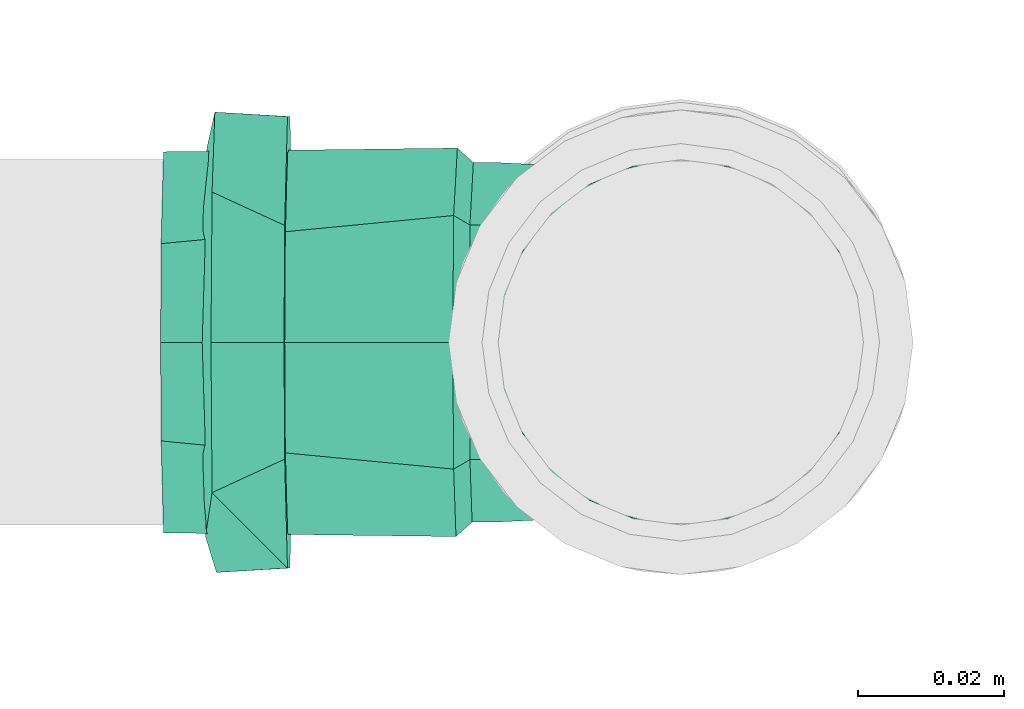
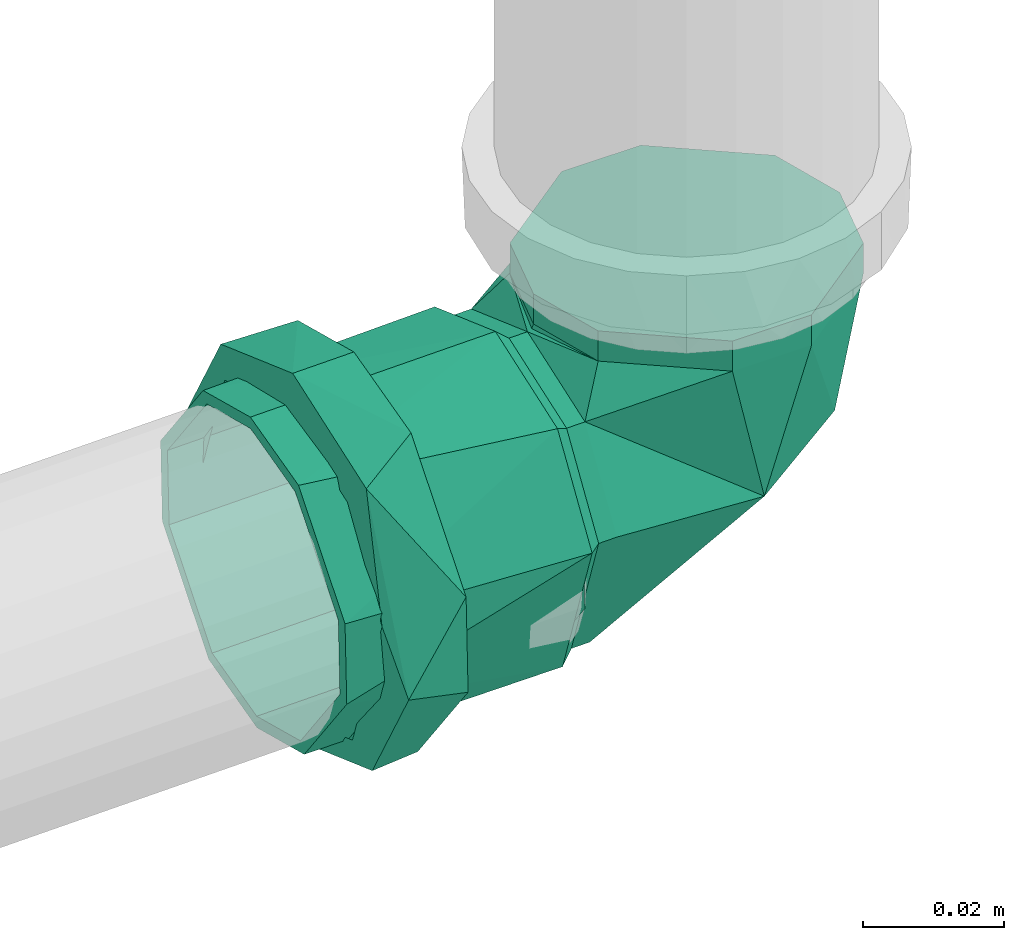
# One storey, part 69 of 589: 1 flow fitting.
"""IFC2X3 building model written with IfcOpenShell, lengths in millimetres."""

from ifc_helpers import new_model, entity, si_unit, converted_unit, derived_unit, direction, frame, origin, place, context, subcontext, project, spatial, faceted_brep, source, transform, mapped, material, type_object, type_shapes, element, save


model = new_model("IFC2X3")

# Units and contexts
model_context = context("Model", 3, precision=0.01, world=origin(), true_north=direction((6.123031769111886e-17, 1.0)))
body_context = subcontext(model_context, "Body", "Model", "MODEL_VIEW")
ifc_project = project(units=[si_unit("LENGTHUNIT", "METRE", prefix="MILLI"), si_unit("AREAUNIT", "SQUARE_METRE"), si_unit("VOLUMEUNIT", "CUBIC_METRE"), converted_unit("PLANEANGLEUNIT", "DEGREE", entity("IfcRatioMeasure", 0.017453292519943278), si_unit("PLANEANGLEUNIT", "RADIAN"), dimensions=[0, 0, 0, 0, 0, 0, 0]), si_unit("MASSUNIT", "GRAM", prefix="KILO"), derived_unit("MASSDENSITYUNIT", [(si_unit("MASSUNIT", "GRAM", prefix="KILO"), 1), (si_unit("LENGTHUNIT", "METRE"), -3)]), derived_unit("IONCONCENTRATIONUNIT", [(si_unit("MASSUNIT", "GRAM", prefix="KILO"), 1), (si_unit("LENGTHUNIT", "METRE"), -3)]), derived_unit("MOMENTOFINERTIAUNIT", [(si_unit("LENGTHUNIT", "METRE"), 4)]), si_unit("TIMEUNIT", "SECOND"), si_unit("FREQUENCYUNIT", "HERTZ"), si_unit("THERMODYNAMICTEMPERATUREUNIT", "DEGREE_CELSIUS"), derived_unit("THERMALTRANSMITTANCEUNIT", [(si_unit("MASSUNIT", "GRAM", prefix="KILO"), 1), (si_unit("THERMODYNAMICTEMPERATUREUNIT", "KELVIN"), -1), (si_unit("TIMEUNIT", "SECOND"), -3)]), derived_unit("THERMALCONDUCTANCEUNIT", [(si_unit("MASSUNIT", "GRAM", prefix="KILO"), 1), (si_unit("THERMODYNAMICTEMPERATUREUNIT", "KELVIN"), -1), (si_unit("TIMEUNIT", "SECOND"), -3), (si_unit("LENGTHUNIT", "METRE"), 1)]), derived_unit("VOLUMETRICFLOWRATEUNIT", [(si_unit("LENGTHUNIT", "METRE"), 3), (si_unit("TIMEUNIT", "SECOND"), -1)]), derived_unit("MASSFLOWRATEUNIT", [(si_unit("MASSUNIT", "GRAM", prefix="KILO"), 1), (si_unit("TIMEUNIT", "SECOND"), -1)]), derived_unit("ROTATIONALFREQUENCYUNIT", [(si_unit("TIMEUNIT", "SECOND"), -1)]), si_unit("ELECTRICCURRENTUNIT", "AMPERE"), si_unit("ELECTRICVOLTAGEUNIT", "VOLT"), si_unit("POWERUNIT", "WATT"), si_unit("FORCEUNIT", "NEWTON", prefix="KILO"), si_unit("ILLUMINANCEUNIT", "LUX"), si_unit("LUMINOUSFLUXUNIT", "LUMEN"), si_unit("LUMINOUSINTENSITYUNIT", "CANDELA"), derived_unit("USERDEFINED", [(si_unit("MASSUNIT", "GRAM", prefix="KILO"), -1), (si_unit("LENGTHUNIT", "METRE"), -2), (si_unit("TIMEUNIT", "SECOND"), 3), (si_unit("LUMINOUSFLUXUNIT", "LUMEN"), 1)]), derived_unit("USERDEFINED", [(si_unit("MASSUNIT", "GRAM", prefix="KILO"), 1), (si_unit("TIMEUNIT", "SECOND"), -3), (si_unit("LENGTHUNIT", "METRE"), 3), (si_unit("ELECTRICCURRENTUNIT", "AMPERE"), -2)]), derived_unit("SOUNDPOWERUNIT", [(si_unit("MASSUNIT", "GRAM", prefix="KILO"), 1), (si_unit("TIMEUNIT", "SECOND"), -3), (si_unit("LENGTHUNIT", "METRE"), 2)]), derived_unit("SOUNDPRESSUREUNIT", [(si_unit("MASSUNIT", "GRAM", prefix="KILO"), 1), (si_unit("LENGTHUNIT", "METRE"), -1), (si_unit("TIMEUNIT", "SECOND"), -2)]), derived_unit("LINEARVELOCITYUNIT", [(si_unit("LENGTHUNIT", "METRE"), 1), (si_unit("TIMEUNIT", "SECOND"), -1)]), si_unit("PRESSUREUNIT", "PASCAL"), derived_unit("USERDEFINED", [(si_unit("MASSUNIT", "GRAM", prefix="KILO"), 1), (si_unit("LENGTHUNIT", "METRE"), -2), (si_unit("TIMEUNIT", "SECOND"), -2)]), derived_unit("LINEARFORCEUNIT", [(si_unit("MASSUNIT", "GRAM", prefix="KILO"), 1), (si_unit("TIMEUNIT", "SECOND"), -2)]), derived_unit("PLANARFORCEUNIT", [(si_unit("MASSUNIT", "GRAM", prefix="KILO"), 1), (si_unit("LENGTHUNIT", "METRE"), -1), (si_unit("TIMEUNIT", "SECOND"), -2)]), derived_unit("SPECIFICHEATCAPACITYUNIT", [(si_unit("THERMODYNAMICTEMPERATUREUNIT", "KELVIN"), -1), (si_unit("LENGTHUNIT", "METRE"), 2), (si_unit("TIMEUNIT", "SECOND"), -2)]), derived_unit("HEATINGVALUEUNIT", [(si_unit("LENGTHUNIT", "METRE"), 2), (si_unit("TIMEUNIT", "SECOND"), -2)]), derived_unit("VAPORPERMEABILITYUNIT", [(si_unit("LENGTHUNIT", "METRE"), -1), (si_unit("TIMEUNIT", "SECOND"), 1)]), derived_unit("DYNAMICVISCOSITYUNIT", [(si_unit("MASSUNIT", "GRAM", prefix="KILO"), 1), (si_unit("TIMEUNIT", "SECOND"), -1), (si_unit("LENGTHUNIT", "METRE"), -1)]), derived_unit("THERMALEXPANSIONCOEFFICIENTUNIT", [(si_unit("THERMODYNAMICTEMPERATUREUNIT", "KELVIN"), -1)]), derived_unit("MODULUSOFELASTICITYUNIT", [(si_unit("MASSUNIT", "GRAM", prefix="KILO"), 1), (si_unit("LENGTHUNIT", "METRE"), -1), (si_unit("TIMEUNIT", "SECOND"), -2)]), derived_unit("ISOTHERMALMOISTURECAPACITYUNIT", [(si_unit("LENGTHUNIT", "METRE"), 3), (si_unit("MASSUNIT", "GRAM", prefix="KILO"), -1)]), derived_unit("MOISTUREDIFFUSIVITYUNIT", [(si_unit("TIMEUNIT", "SECOND"), -1), (si_unit("LENGTHUNIT", "METRE"), 2)])], contexts=[model_context])

# Site, building, storey
site_placement = place(None, origin())
site = spatial("IfcSite", under=ifc_project, at=site_placement, Name="Default", CompositionType="ELEMENT")
building_placement = place(site_placement, origin())
building = spatial("IfcBuilding", under=site, at=building_placement, CompositionType="ELEMENT")
storey_placement = place(building_placement, frame((0.0, 0.0, 100.0)))
storey = spatial("IfcBuildingStorey", under=building, at=storey_placement, Name="TÉRREO", CompositionType="ELEMENT", Elevation=100.0)

# Flow fitting
ifc_material = material(Name="PVC Série Normal")
pipe_fitting_type = type_object("IfcPipeFittingType", Name="PVC Esgoto_Joelho 45_90_Rodrigo MEP:a. Série Normal", PredefinedType="NOTDEFINED", material=ifc_material)
shared_shape = source(origin(), body_context, "Body", "Brep", [
    faceted_brep([(22.155908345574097, 25.047177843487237, 12.499999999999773), (6.978784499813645, 25.35072032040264, 24.148145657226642), (-5.959580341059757, 25.609487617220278, 24.14814565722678), (-21.136704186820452, 25.913030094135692, 12.500000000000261), (-24.485399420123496, 25.9800039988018, 0.0), (-21.13670418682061, 25.913030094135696, -12.499999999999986), (-5.959580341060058, 25.609487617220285, -24.1481456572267), (6.978784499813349, 25.35072032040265, -24.14814565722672), (22.155908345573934, 25.04717784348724, -12.500000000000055), (25.504603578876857, 24.980203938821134, 0.0), (22.25988755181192, 30.24613815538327, -12.500000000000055), (7.082763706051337, 30.54968063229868, -24.14814565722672), (-5.85560113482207, 30.80844792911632, -24.1481456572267), (-21.03272498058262, 31.11199040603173, -12.499999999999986), (-24.38142021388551, 31.17896431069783, 0.0), (-21.032724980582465, 31.111990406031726, 12.500000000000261), (-5.855601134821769, 30.808447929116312, 24.14814565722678), (7.082763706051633, 30.549680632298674, 24.148145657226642), (22.259887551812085, 30.246138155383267, 12.499999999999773), (25.608582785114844, 30.179164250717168, 0.0)], [[[0, 1, 2, 3, 4, 5, 6, 7, 8, 9]], [[10, 11, 12, 13, 14, 15, 16, 17, 18, 19]], [[9, 19, 18, 0]], [[0, 18, 17, 1]], [[17, 16, 2, 1]], [[2, 16, 15, 3]], [[3, 15, 14, 4]], [[4, 14, 13, 5]], [[5, 13, 12, 6]], [[12, 11, 7, 6]], [[7, 11, 10, 8]], [[8, 10, 19, 9]]]),
    faceted_brep([(-70.68519948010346, -6.988114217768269, -26.07999730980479), (-70.68519948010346, -6.47047612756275, -24.14814565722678), (-70.68519948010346, 6.4704761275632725, -24.148145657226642), (-70.68519948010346, -23.382685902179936, -13.499999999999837), (-70.68519948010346, 6.988114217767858, -26.0799973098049), (-70.68519948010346, -21.650635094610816, -12.500000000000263), (-70.68519948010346, -25.0, 0.0), (-70.68519948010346, -27.0, 0.0), (-70.68519948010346, -21.650635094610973, 12.499999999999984), (-70.68519948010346, -23.382685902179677, 13.500000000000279), (-70.68519948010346, -6.470476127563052, 24.1481456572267), (-70.68519948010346, -6.98811421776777, 26.079997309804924), (-70.68519948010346, 6.470476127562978, 24.14814565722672), (-70.68519948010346, 6.988114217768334, 26.07999730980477), (-70.68519948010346, 21.650635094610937, 12.500000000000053), (-70.68519948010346, 23.38268590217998, 13.499999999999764), (-70.68519948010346, 27.0, 0.0), (-70.68519948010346, 25.0, 0.0), (-70.68519948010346, 23.382685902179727, -13.500000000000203), (-70.68519948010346, 21.6506350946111, -12.499999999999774), (-30.685199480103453, 21.650635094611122, -12.499999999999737), (-30.685199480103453, 25.0, 0.0), (-30.685199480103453, 6.4704761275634, -24.148145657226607), (-30.685199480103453, -6.470476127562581, -24.148145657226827), (-30.685199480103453, -21.650635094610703, -12.500000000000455), (-30.685199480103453, -25.0, 0.0), (-30.685199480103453, -21.65063509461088, 12.500000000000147), (-30.685199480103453, -6.470476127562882, 24.14814565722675), (-30.685199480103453, 6.470476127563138, 24.148145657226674), (-30.685199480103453, 21.650635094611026, 12.499999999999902), (-30.685199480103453, 27.0, 0.0), (-30.68519948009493, 20.682232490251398, 17.35641838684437), (-30.685199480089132, 4.685536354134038, 26.59033187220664), (-30.68519948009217, -20.686585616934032, 17.35122979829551), (-30.685199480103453, -27.0, 0.0), (-30.685199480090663, -8.000524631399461, 21.970780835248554), (-30.685199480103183, -20.686585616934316, -17.35122979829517), (-30.685199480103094, -4.6922062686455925, -26.589155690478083), (-30.685199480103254, 20.682232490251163, -17.356418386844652), (-30.685199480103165, 7.995013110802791, -21.97278703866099), (-28.485199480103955, -4.338459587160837, -24.62067765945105), (-28.48519948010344, 25.0, 0.0), (-28.485199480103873, 19.154245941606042, -16.065953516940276), (-28.485199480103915, 7.407893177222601, -20.34331558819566), (-28.485199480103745, -19.15021526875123, -16.070757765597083), (-28.48519948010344, -25.0, 0.0), (-28.48519948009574, -19.150215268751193, 16.07075776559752), (-28.48519948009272, -7.402789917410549, 20.34517318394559), (-28.485199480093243, 19.15424594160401, 16.065953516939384), (-28.4851994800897, 4.34463543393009, 24.619588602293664), (-25.48519948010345, 25.0, 0.0), (-25.48519948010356, 19.151286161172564, 16.069481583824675), (-25.48519948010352, 4.341396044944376, 24.62016003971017), (-25.485199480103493, -7.404832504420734, 20.344954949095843), (-25.48519948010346, -19.15106105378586, 16.069749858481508), (-25.48519948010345, -25.0, 0.0), (-25.48519948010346, -19.15106105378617, -16.069749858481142), (-25.485199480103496, -4.341051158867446, -24.62022085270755), (-25.48519948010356, 19.15128616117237, -16.069481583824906), (-25.48519948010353, 7.405117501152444, -20.344851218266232), (25.50460357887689, 24.980203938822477, 0.0), (22.155908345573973, 25.0471778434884, -12.500000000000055), (6.978784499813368, 25.350720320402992, -24.14814565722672), (-5.959580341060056, 25.60948761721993, -24.1481456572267), (-21.136704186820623, 25.913030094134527, -12.499999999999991), (-24.4853994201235, 25.98000399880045, 0.0), (-21.13670418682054, 25.91303009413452, 12.500000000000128), (-5.959580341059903, 25.60948761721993, 24.14814565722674), (6.978784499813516, 25.35072032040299, 24.148145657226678), (22.155908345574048, 25.0471778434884, 12.499999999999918), (-0.7788601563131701, 1.4807484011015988, 23.396989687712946), (-2.9161415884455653, -15.783506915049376, 0.0), (14.908011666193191, 6.224974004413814, 16.278399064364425), (15.838661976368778, 2.599950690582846, 0.0), (-24.78519805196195, 25.285858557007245, 0.0), (10.21487335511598, -10.42121359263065, 0.0), (14.89184475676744, 6.201663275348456, -16.283365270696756), (-0.8189039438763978, 1.3893605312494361, -23.383376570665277)], [[[0, 1, 2]], [[1, 0, 3]], [[2, 4, 0]], [[3, 5, 1]], [[3, 6, 5]], [[6, 3, 7]], [[8, 6, 7]], [[8, 7, 9]], [[9, 10, 8]], [[9, 11, 10]], [[10, 11, 12]], [[13, 12, 11]], [[13, 14, 12]], [[14, 13, 15]], [[16, 14, 15]], [[17, 14, 16]], [[18, 17, 16]], [[18, 19, 17]], [[19, 18, 4]], [[4, 2, 19]], [[20, 21, 17, 19]], [[22, 20, 19, 2]], [[2, 1, 23, 22]], [[24, 23, 1, 5]], [[25, 24, 5, 6]], [[26, 25, 6, 8]], [[27, 26, 8, 10]], [[10, 12, 28, 27]], [[29, 28, 12, 14]], [[21, 29, 14, 17]], [[16, 15, 30]], [[15, 31, 30]], [[31, 15, 13]], [[31, 13, 32]], [[33, 11, 9]], [[34, 9, 7]], [[11, 33, 35, 32]], [[33, 9, 34]], [[11, 32, 13]], [[7, 3, 34]], [[3, 36, 34]], [[36, 3, 0]], [[36, 0, 37]], [[38, 4, 18]], [[30, 18, 16]], [[4, 38, 39, 37]], [[38, 18, 30]], [[4, 37, 0]], [[28, 29, 21, 20, 22, 23, 24, 25, 26, 27]], [[39, 40, 37]], [[41, 42, 30]], [[30, 42, 38]], [[38, 43, 39]], [[44, 45, 36]], [[38, 42, 43]], [[36, 37, 44]], [[34, 36, 45]], [[40, 39, 43]], [[44, 37, 40]], [[45, 46, 33]], [[33, 34, 45]], [[46, 35, 33]], [[46, 47, 35]], [[47, 32, 35]], [[48, 41, 30]], [[48, 31, 49]], [[31, 48, 30]], [[32, 47, 49]], [[49, 31, 32]], [[41, 48, 50]], [[48, 51, 50]], [[51, 48, 49]], [[51, 49, 52]], [[52, 47, 53]], [[46, 54, 53]], [[46, 45, 54]], [[49, 47, 52]], [[54, 45, 55]], [[47, 46, 53]], [[45, 44, 56]], [[45, 56, 55]], [[56, 44, 57]], [[58, 59, 43]], [[44, 40, 57]], [[40, 59, 57]], [[58, 43, 42]], [[42, 50, 58]], [[50, 42, 41]], [[59, 40, 43]], [[60, 61, 62, 63, 64, 65, 66, 67, 68, 69]], [[52, 70, 51]], [[54, 71, 70]], [[70, 52, 53, 54]], [[69, 72, 73]], [[50, 66, 74]], [[51, 66, 50]], [[54, 55, 71]], [[75, 70, 71]], [[73, 60, 69]], [[75, 72, 70]], [[68, 70, 72]], [[74, 66, 65]], [[72, 69, 68]], [[66, 51, 67]], [[70, 67, 51]], [[72, 75, 73]], [[68, 67, 70]], [[61, 76, 62]], [[71, 55, 56]], [[77, 58, 63]], [[77, 57, 59, 58]], [[77, 71, 56]], [[56, 57, 77]], [[75, 76, 73]], [[58, 50, 64]], [[74, 65, 64]], [[71, 77, 75]], [[64, 63, 58]], [[61, 73, 76]], [[61, 60, 73]], [[75, 77, 76]], [[76, 77, 62]], [[63, 62, 77]], [[64, 50, 74]]]),
    faceted_brep([(-53.68519948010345, 6.9881142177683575, -26.07999730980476), (-53.68519948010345, -6.988114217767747, -26.079997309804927), (-53.68519948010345, -8.282209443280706, -30.909626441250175), (-53.68519948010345, 8.28220944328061, -30.9096264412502), (-53.68519948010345, 23.38268590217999, -13.499999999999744), (-53.68519948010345, -27.712812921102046, -16.0), (-53.68519948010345, -23.38268590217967, -13.500000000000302), (-53.68519948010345, -27.0, 0.0), (-53.68519948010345, -32.0, 0.0), (-53.68519948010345, -23.382685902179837, 13.500000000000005), (-53.68519948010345, -27.712812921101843, 16.0), (-53.68519948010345, -6.988114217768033, 26.07999730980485), (-53.68519948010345, -8.28220944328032, 30.909626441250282), (-53.68519948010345, 6.988114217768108, 26.07999730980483), (-53.68519948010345, 8.282209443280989, 30.909626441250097), (-53.68519948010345, 23.382685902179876, 13.499999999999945), (-53.68519948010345, 27.712812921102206, 16.0), (-53.68519948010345, 32.0, 0.0), (-53.68519948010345, 27.0, 0.0), (-53.68519948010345, 27.712812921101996, -16.0), (-63.685199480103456, 27.0, 0.0), (-64.98519948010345, 27.0, 0.0), (-63.685199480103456, 25.191342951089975, -6.750000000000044), (-63.685199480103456, 23.38268590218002, -13.499999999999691), (-63.685199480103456, 19.284042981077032, -16.644999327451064), (-63.685199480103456, 15.185400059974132, -19.789998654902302), (-63.685199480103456, 11.086757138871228, -22.934997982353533), (-63.685199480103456, 6.988114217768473, -26.07999730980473), (-63.685199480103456, 0.0, -26.079997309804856), (-63.685199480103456, -6.988114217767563, -26.079997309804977), (-63.685199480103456, -11.086757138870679, -22.934997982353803), (-63.685199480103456, -15.185400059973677, -19.789998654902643), (-63.685199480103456, -19.284042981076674, -16.644999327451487), (-63.685199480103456, -23.382685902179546, -13.50000000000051), (-63.685199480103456, -25.191342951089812, -6.750000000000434), (-64.98519948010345, -27.0, 0.0), (-63.685199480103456, -27.0, 0.0), (-63.685199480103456, -25.19134295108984, 6.750000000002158), (-63.685199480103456, -23.382685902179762, 13.500000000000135), (-63.685199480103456, -19.284042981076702, 16.64499932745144), (-63.685199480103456, -15.185400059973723, 19.7899986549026), (-63.685199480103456, -11.086757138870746, 22.934997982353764), (-63.685199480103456, -6.988114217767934, 26.079997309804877), (-63.685199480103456, 0.0, 26.079997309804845), (-63.685199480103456, 6.988114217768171, 26.079997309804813), (-63.685199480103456, 11.086757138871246, 22.93499798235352), (-63.685199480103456, 15.185400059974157, 19.789998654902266), (-63.685199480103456, 19.284042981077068, 16.644999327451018), (-63.685199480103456, 23.382685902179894, 13.499999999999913), (-63.685199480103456, 25.19134295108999, 6.74999999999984), (-63.685199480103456, 32.0, 0.0), (-63.685199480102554, 24.512275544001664, 20.570569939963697), (-63.685199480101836, -5.561133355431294, 31.51307341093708), (-63.685199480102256, -24.51743480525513, 20.56442050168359), (-63.685199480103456, -32.0, 0.0), (-63.685199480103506, -24.51743480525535, -20.564420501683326), (-63.68519948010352, 5.553228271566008, -31.514467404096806), (-63.68519948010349, 24.512275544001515, -20.570569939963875), (-64.98519948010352, -23.84329280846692, -8.675614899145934), (-64.98519948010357, -20.686585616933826, -17.351229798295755), (-64.9851994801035, 23.841116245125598, -8.678209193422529), (-64.98519948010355, 20.6822324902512, -17.356418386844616), (-64.9851994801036, -12.689395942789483, -21.970192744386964), (-64.98519948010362, -4.692206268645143, -26.589155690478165), (-64.98519948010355, 14.338622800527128, -19.664602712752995), (-64.9851994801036, 1.6514034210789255, -24.280971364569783), (-64.98519948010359, 7.995013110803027, -21.97278703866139), (-64.985199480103, 23.84111624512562, 8.678209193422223), (-64.98519948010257, 20.68223249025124, 17.35641838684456), (-64.98519948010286, -23.843292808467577, 8.675614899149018), (-64.98519948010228, -20.686585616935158, 17.351229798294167), (-64.98519948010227, 12.683884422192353, 21.973375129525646), (-64.98519948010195, 4.685536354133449, 26.590331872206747), (-64.9851994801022, -14.343555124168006, 19.66100531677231), (-64.98519948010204, -1.6574941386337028, 24.2805563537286), (-64.98519948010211, -8.000524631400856, 21.97078083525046)], [[[0, 1, 2]], [[2, 3, 0]], [[4, 0, 3]], [[5, 2, 1]], [[1, 6, 5]], [[6, 7, 5]], [[8, 5, 7]], [[8, 7, 9]], [[10, 8, 9]], [[9, 11, 10]], [[11, 12, 10]], [[13, 12, 11]], [[12, 13, 14]], [[13, 15, 14]], [[16, 14, 15]], [[16, 15, 17]], [[17, 15, 18]], [[18, 4, 19]], [[17, 18, 19]], [[3, 19, 4]], [[4, 18, 20, 21, 22, 23]], [[0, 4, 23, 24, 25, 26, 27]], [[0, 27, 28, 29, 1]], [[6, 1, 29, 30, 31, 32, 33]], [[7, 6, 33, 34, 35, 36]], [[9, 7, 36, 35, 37, 38]], [[11, 9, 38, 39, 40, 41, 42]], [[11, 42, 43, 44, 13]], [[15, 13, 44, 45, 46, 47, 48]], [[18, 15, 48, 49, 21, 20]], [[50, 51, 16]], [[50, 16, 17]], [[16, 51, 14]], [[51, 52, 14]], [[12, 52, 53]], [[10, 53, 54]], [[53, 10, 12]], [[10, 54, 8]], [[52, 12, 14]], [[54, 55, 5]], [[54, 5, 8]], [[5, 55, 2]], [[55, 56, 2]], [[3, 56, 57]], [[19, 57, 50]], [[57, 19, 3]], [[19, 50, 17]], [[56, 3, 2]], [[58, 33, 59]], [[23, 60, 61]], [[32, 31, 59, 33]], [[30, 29, 62, 31]], [[24, 23, 61, 25]], [[29, 28, 63]], [[26, 25, 64]], [[65, 63, 28]], [[31, 62, 59]], [[63, 62, 29]], [[60, 22, 21]], [[34, 58, 35]], [[66, 26, 64]], [[28, 27, 65]], [[27, 66, 65]], [[27, 26, 66]], [[64, 25, 61]], [[34, 33, 58]], [[60, 23, 22]], [[67, 48, 68]], [[38, 69, 70]], [[47, 46, 68, 48]], [[45, 44, 71, 46]], [[39, 38, 70, 40]], [[44, 43, 72]], [[41, 40, 73]], [[74, 72, 43]], [[46, 71, 68]], [[72, 71, 44]], [[69, 37, 35]], [[49, 67, 21]], [[75, 41, 73]], [[43, 42, 74]], [[42, 75, 74]], [[42, 41, 75]], [[73, 40, 70]], [[49, 48, 67]], [[69, 38, 37]], [[54, 35, 58, 59, 55]], [[55, 59, 62, 63]], [[55, 63, 56]], [[57, 61, 60, 21, 50]], [[57, 56, 61]], [[56, 63, 65, 66, 64, 61]], [[50, 21, 67, 68, 51]], [[51, 68, 71, 72]], [[51, 72, 52]], [[53, 70, 69, 35, 54]], [[53, 52, 70]], [[52, 72, 74, 75, 73, 70]]]),
])
type_shapes(pipe_fitting_type, [shared_shape])
flow_fitting_placement = place(storey_placement, frame((-7009.24098136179, -5330.070962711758, 3006.388540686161), z_axis=(0.0, -1.0, 0.0), x_axis=(0.999800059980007, 0.0, 0.019996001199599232)))
element("IfcFlowFitting", 1, at=flow_fitting_placement, inside=storey, type_object=pipe_fitting_type, material=ifc_material, Name="PVC Esgoto_Joelho 45_90_Rodrigo MEP:a. Série Normal", ObjectType="PVC Esgoto_Joelho 45_90_Rodrigo MEP:a. Série Normal", context=body_context, shape_type="MappedRepresentation", body=[
    mapped(shared_shape, transform((0.0, 0.0, 0.0), scale=1.0)),
])

save(model, "model.ifc")
